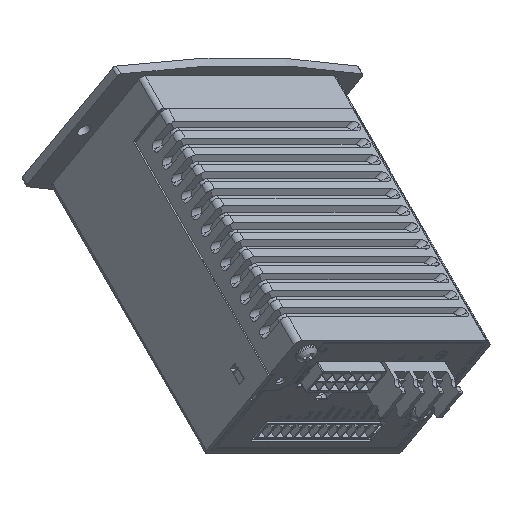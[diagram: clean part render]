
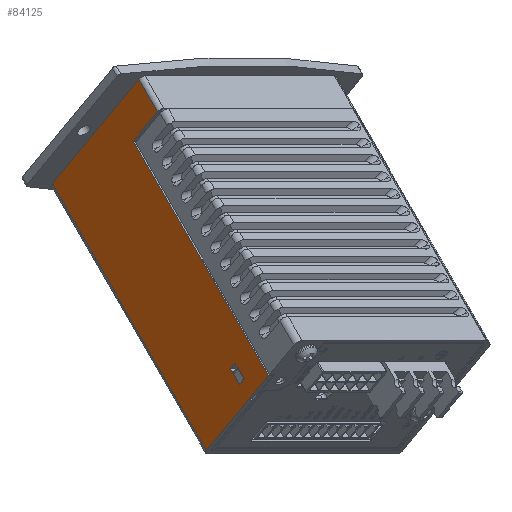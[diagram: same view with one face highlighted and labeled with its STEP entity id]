
A CAD part, left-side view. The second image highlights one B-rep face of the part: STEP entity #84125.
In plain terms, the highlighted planar face has unit normal (-0.691, 0.723, 0).
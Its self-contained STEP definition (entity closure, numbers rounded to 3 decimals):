
#56081=CARTESIAN_POINT('',(-47.425,167.525,22.148));
#56082=VERTEX_POINT('',#56081);
#56090=CARTESIAN_POINT('',(-39.931,174.678,13.493));
#56091=VERTEX_POINT('',#56090);
#56092=CARTESIAN_POINT('',(-39.931,174.678,13.493));
#56093=DIRECTION('',(-0.555,-0.53,0.641));
#56094=VECTOR('',#56093,13.5);
#56095=LINE('',#56092,#56094);
#56096=EDGE_CURVE('',#56091,#56082,#56095,.T.);
#56187=CARTESIAN_POINT('',(-74.029,142.129,-56.581));
#56188=VERTEX_POINT('',#56187);
#56195=CARTESIAN_POINT('',(-71.247,144.785,-51.977));
#56196=VERTEX_POINT('',#56195);
#56197=CARTESIAN_POINT('',(-71.247,144.785,-51.977));
#56198=DIRECTION('',(-0.464,-0.443,-0.767));
#56199=VECTOR('',#56198,6.0);
#56200=LINE('',#56197,#56199);
#56201=EDGE_CURVE('',#56196,#56188,#56200,.T.);
#61414=CARTESIAN_POINT('',(-81.669,134.836,-55.576));
#61415=VERTEX_POINT('',#61414);
#61422=CARTESIAN_POINT('',(-62.518,153.117,-77.695));
#61423=VERTEX_POINT('',#61422);
#61424=CARTESIAN_POINT('',(-62.518,153.117,-77.695));
#61425=DIRECTION('',(-0.555,-0.53,0.641));
#61426=VECTOR('',#61425,34.5);
#61427=LINE('',#61424,#61426);
#61428=EDGE_CURVE('',#61423,#61415,#61427,.T.);
#73177=CARTESIAN_POINT('',(-14.982,198.494,0.967));
#73178=VERTEX_POINT('',#73177);
#73186=CARTESIAN_POINT('',(-41.628,173.058,31.741));
#73187=VERTEX_POINT('',#73186);
#73188=CARTESIAN_POINT('',(-14.982,198.494,0.967));
#73189=DIRECTION('',(-0.555,-0.53,0.641));
#73190=VECTOR('',#73189,48.);
#73191=LINE('',#73188,#73190);
#73192=EDGE_CURVE('',#73178,#73187,#73191,.T.);
#84068=CARTESIAN_POINT('',(-41.628,173.058,31.741));
#84069=DIRECTION('',(-0.464,-0.443,-0.767));
#84070=VECTOR('',#84069,12.5);
#84071=LINE('',#84068,#84070);
#84072=EDGE_CURVE('',#73187,#56082,#84071,.T.);
#84077=CARTESIAN_POINT('',(-14.15,199.289,0.005));
#84078=DIRECTION('',(-0.69,0.723,0.));
#84079=DIRECTION('',(-0.464,-0.443,-0.767));
#84080=AXIS2_PLACEMENT_3D('',#84077,#84078,#84079);
#84081=PLANE('',#84080);
#84082=ORIENTED_EDGE('',*,*,#84072,.F.);
#84083=ORIENTED_EDGE('',*,*,#73192,.F.);
#84084=CARTESIAN_POINT('',(-62.518,153.117,-77.695));
#84085=DIRECTION('',(0.464,0.443,0.767));
#84086=VECTOR('',#84085,102.5);
#84087=LINE('',#84084,#84086);
#84088=EDGE_CURVE('',#61423,#73178,#84087,.T.);
#84089=ORIENTED_EDGE('',*,*,#84088,.F.);
#84090=ORIENTED_EDGE('',*,*,#61428,.T.);
#84091=CARTESIAN_POINT('',(-81.669,134.836,-55.576));
#84092=DIRECTION('',(0.464,0.443,0.767));
#84093=VECTOR('',#84092,90.);
#84094=LINE('',#84091,#84093);
#84095=EDGE_CURVE('',#61415,#56091,#84094,.T.);
#84096=ORIENTED_EDGE('',*,*,#84095,.T.);
#84097=ORIENTED_EDGE('',*,*,#56096,.T.);
#84098=EDGE_LOOP('',(#84082,#84083,#84089,#84090,#84096,#84097));
#84099=FACE_OUTER_BOUND('',#84098,.T.);
#84100=ORIENTED_EDGE('',*,*,#56201,.T.);
#84101=CARTESIAN_POINT('',(-72.642,143.453,-58.184));
#84102=VERTEX_POINT('',#84101);
#84103=CARTESIAN_POINT('',(-74.029,142.129,-56.581));
#84104=DIRECTION('',(0.555,0.53,-0.641));
#84105=VECTOR('',#84104,2.5);
#84106=LINE('',#84103,#84105);
#84107=EDGE_CURVE('',#56188,#84102,#84106,.T.);
#84108=ORIENTED_EDGE('',*,*,#84107,.T.);
#84109=CARTESIAN_POINT('',(-69.859,146.11,-53.579));
#84110=VERTEX_POINT('',#84109);
#84111=CARTESIAN_POINT('',(-72.642,143.453,-58.184));
#84112=DIRECTION('',(0.464,0.443,0.767));
#84113=VECTOR('',#84112,6.0);
#84114=LINE('',#84111,#84113);
#84115=EDGE_CURVE('',#84102,#84110,#84114,.T.);
#84116=ORIENTED_EDGE('',*,*,#84115,.T.);
#84117=CARTESIAN_POINT('',(-69.859,146.11,-53.579));
#84118=DIRECTION('',(-0.555,-0.53,0.641));
#84119=VECTOR('',#84118,2.5);
#84120=LINE('',#84117,#84119);
#84121=EDGE_CURVE('',#84110,#56196,#84120,.T.);
#84122=ORIENTED_EDGE('',*,*,#84121,.T.);
#84123=EDGE_LOOP('',(#84100,#84108,#84116,#84122));
#84124=FACE_BOUND('',#84123,.T.);
#84125=ADVANCED_FACE('',(#84099,#84124),#84081,.T.);
